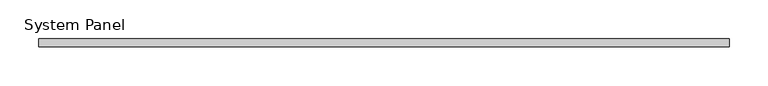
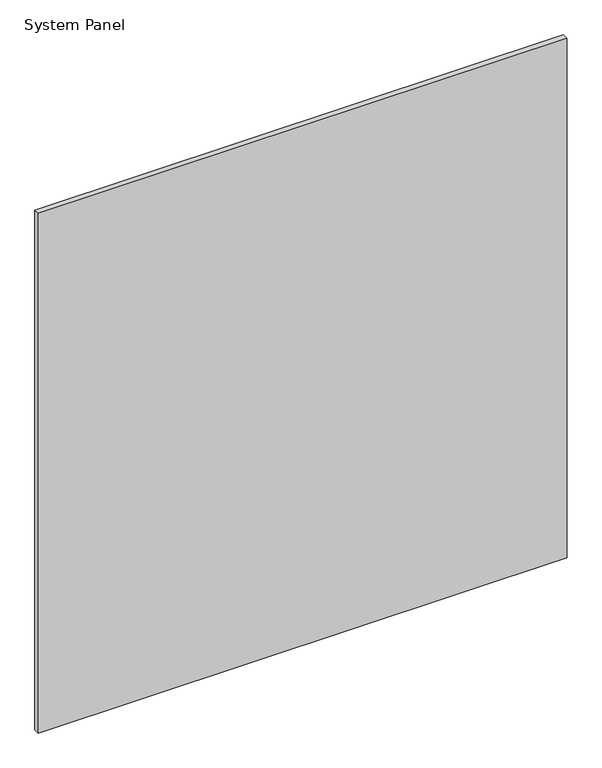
"""IFC4 building model written with IfcOpenShell, lengths in millimetres: plate geometry, System Panel : MALLA ACMA."""

from ifc_helpers import new_model, si_unit, origin, origin_with_axes, place, context, project, spatial, polyline, outline, extrude, source, transform, mapped, element, save


def system_panel_e05096ac(model_context):
    return source(origin(), model_context, "Body", "SweptSolid", [
        extrude(outline(polyline([(442.8756578, -5.0), (-442.8756578, -5.0), (-442.8756578, 5.0), (442.8756578, 5.0), (442.8756578, -5.0)])), origin_with_axes(), (0.0, 0.0, 1.0), 920.0),
    ])


if __name__ == "__main__":
    model = new_model("IFC4")
    model_context = context("Model", 3, world=origin())
    ifc_project = project(units=[si_unit("LENGTHUNIT", "METRE", prefix="MILLI")], contexts=[model_context])
    site = spatial("IfcSite", under=ifc_project)
    building = spatial("IfcBuilding", under=site)
    placement = place(None, origin())
    system_panel_shape = system_panel_e05096ac(model_context)
    element("IfcPlate", 1, ObjectType="System Panel : MALLA ACMA", at=placement, inside=building, context=model_context, shape_type="MappedRepresentation", body=[
        mapped(system_panel_shape, transform((0.0, 0.0, 0.0), x_axis=(1.0, 0.0, 0.0), y_axis=(0.0, 1.0, 0.0), z_axis=(0.0, 0.0, 1.0))),
    ])
    save(model, "model.ifc")
